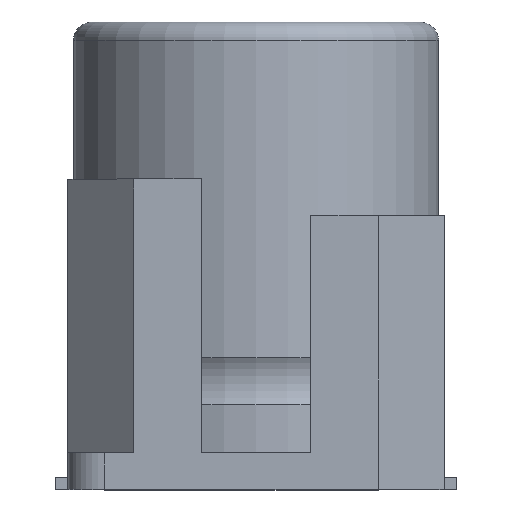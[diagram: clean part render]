
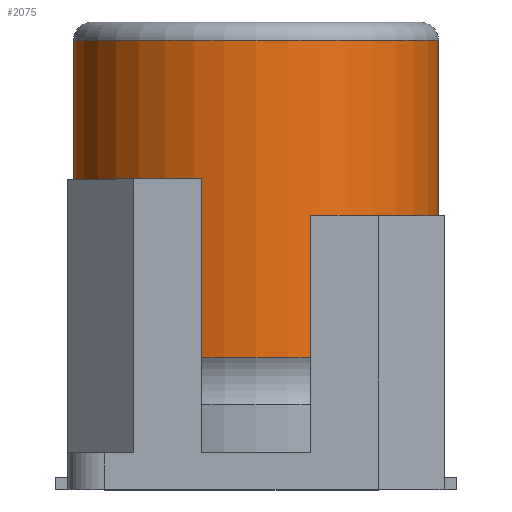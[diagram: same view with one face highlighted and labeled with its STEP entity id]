
A CAD part, top view. The second image highlights one B-rep face of the part: STEP entity #2075.
In plain terms, the highlighted cylindrical face has radius 5 mm (diameter 10 mm), a full revolution.
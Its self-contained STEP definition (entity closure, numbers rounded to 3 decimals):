
#49=CYLINDRICAL_SURFACE('',#2270,5.);
#65=FACE_BOUND('',#230,.T.);
#76=CIRCLE('',#2268,5.);
#77=CIRCLE('',#2271,5.);
#120=FACE_OUTER_BOUND('',#229,.T.);
#229=EDGE_LOOP('',(#1335));
#230=EDGE_LOOP('',(#1336));
#842=VERTEX_POINT('',#2998);
#843=VERTEX_POINT('',#3002);
#1038=EDGE_CURVE('',#842,#842,#76,.T.);
#1039=EDGE_CURVE('',#843,#843,#77,.T.);
#1335=ORIENTED_EDGE('',*,*,#1039,.F.);
#1336=ORIENTED_EDGE('',*,*,#1038,.F.);
#2075=ADVANCED_FACE('',(#120,#65),#49,.T.);
#2268=AXIS2_PLACEMENT_3D('',#2999,#2443,#2444);
#2270=AXIS2_PLACEMENT_3D('',#3001,#2447,#2448);
#2271=AXIS2_PLACEMENT_3D('',#3003,#2449,#2450);
#2443=DIRECTION('center_axis',(0.,1.,0.));
#2444=DIRECTION('ref_axis',(-1.,0.,0.));
#2447=DIRECTION('center_axis',(0.,-1.,0.));
#2448=DIRECTION('ref_axis',(1.,0.,0.));
#2449=DIRECTION('center_axis',(0.,-1.,0.));
#2450=DIRECTION('ref_axis',(1.,0.,0.));
#2998=CARTESIAN_POINT('',(5.,11.3,0.));
#2999=CARTESIAN_POINT('Origin',(0.,11.3,0.));
#3001=CARTESIAN_POINT('Origin',(0.,7.2,0.));
#3002=CARTESIAN_POINT('',(5.,2.6,0.));
#3003=CARTESIAN_POINT('Origin',(0.,2.6,0.));
